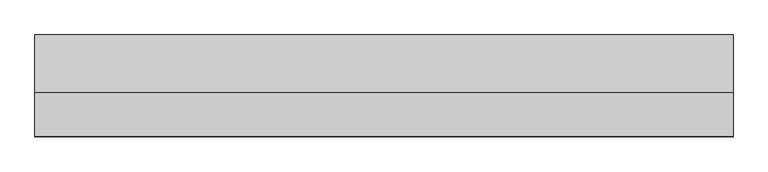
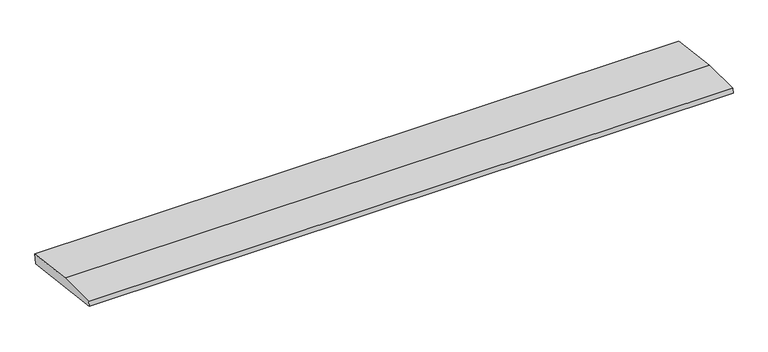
"""IFC4 building model written with IfcOpenShell, lengths in millimetres: beam geometry, weatherboad : weatherboad."""

from ifc_helpers import new_model, si_unit, frame, origin, place, context, project, spatial, polyline, outline, extrude, source, transform, mapped, element, save


def beam_653da2ef(model_context):
    return source(origin(), model_context, "Body", "SweptSolid", [
        extrude(outline(polyline([(0.0, -9.143159), (1.1226388, 0.0), (79.0749747, 0.0), (180.9387048, -12.5072934), (178.6231873, -31.3656703), (0.0, -9.143159)])), frame((-619.6310453, 0.0, 0.0), z_axis=(1.0, 0.0, 0.0), x_axis=(0.0, 1.0, 0.0)), (0.0, 0.0, 1.0), 1239.2620906),
    ])


if __name__ == "__main__":
    model = new_model("IFC4")
    model_context = context("Model", 3, world=origin())
    ifc_project = project(units=[si_unit("LENGTHUNIT", "METRE", prefix="MILLI")], contexts=[model_context])
    site = spatial("IfcSite", under=ifc_project)
    building = spatial("IfcBuilding", under=site)
    placement = place(None, origin())
    beam_shape = beam_653da2ef(model_context)
    element("IfcBeam", 1, ObjectType="weatherboad : weatherboad", at=placement, inside=building, context=model_context, shape_type="MappedRepresentation", body=[
        mapped(beam_shape, transform((0.0, 0.0, 0.0), x_axis=(1.0, 0.0, 0.0), y_axis=(0.0, 1.0, 0.0), z_axis=(0.0, 0.0, 1.0))),
    ])
    save(model, "model.ifc")
